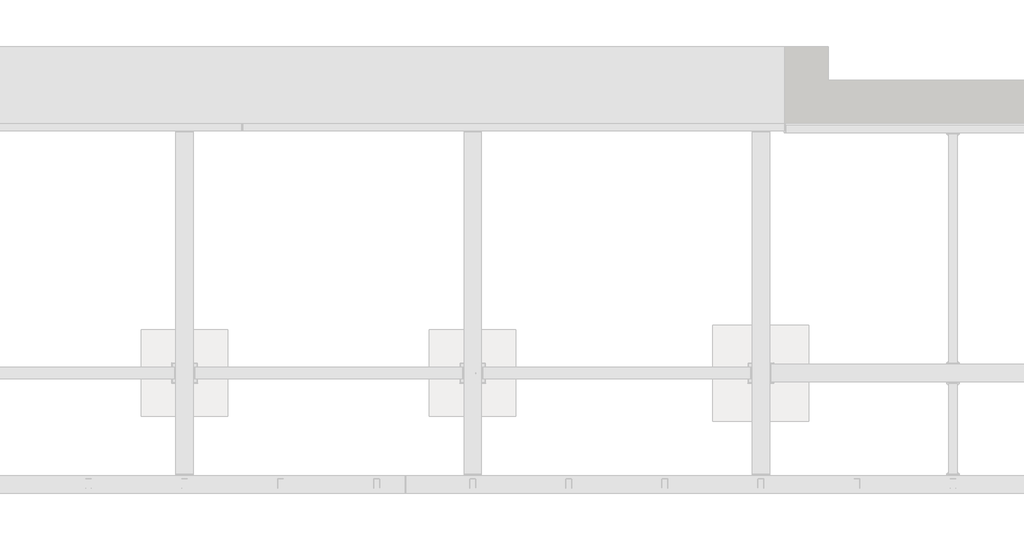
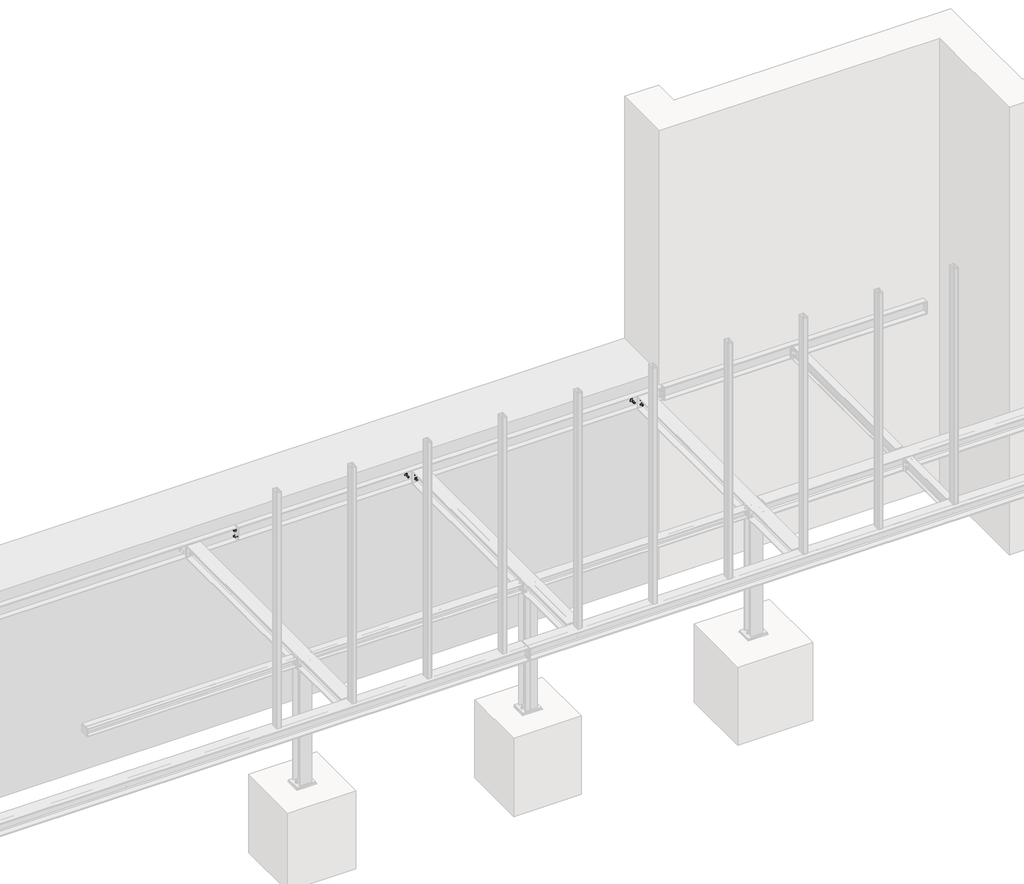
# One storey, part 25 of 31: 2 assemblies.
"""IFC4 building model written with IfcOpenShell, lengths in millimetres."""

import ifcopenshell
import ifcopenshell.guid

model = None  # the IFC model being written
_history = None  # IfcOwnerHistory: only IFC2X3 demands one
_inside = {}  # id of a spatial element -> (the spatial element, [elements in it])
_under = {}  # id of a project, library or spatial element -> (it, [spatial elements below it])
_declared = {}  # id of a project -> (the project, [libraries it declares])
_typed = {}  # id of a type object -> (the type object, [elements of that type])
_made_of = {}  # id of a material, layer set ... -> (it, [elements and type objects made of it])


def new_model(schema):
    """Start an empty IFC model of exactly this schema.

    Asked for "IFC4X3", IfcOpenShell would pick the latest addendum, in which some entities
    have other attributes; the version numbers below select the first issue.
    IFC2X3 requires an IfcOwnerHistory on every rooted entity: one is made here for all.
    """
    global model, _history
    if schema == "IFC4X3":
        model = ifcopenshell.file(schema_version=(4, 3, 0, 0))
    else:
        model = ifcopenshell.file(schema=schema)
    _inside.clear()
    _under.clear()
    _declared.clear()
    _typed.clear()
    _made_of.clear()
    _history = None
    if model.schema == "IFC2X3":
        org = make("IfcOrganization", Name="unknown")
        user = make(
            "IfcPersonAndOrganization",
            ThePerson=make("IfcPerson", FamilyName="unknown"),
            TheOrganization=org,
        )
        app = make(
            "IfcApplication",
            ApplicationDeveloper=org,
            Version="unknown",
            ApplicationFullName="unknown",
            ApplicationIdentifier="unknown",
        )
        _history = make(
            "IfcOwnerHistory",
            OwningUser=user,
            OwningApplication=app,
            ChangeAction="ADDED",
            CreationDate=0,
        )
    return model


def make(cls, **values):
    """One entity of the class cls with the attributes given. An attribute that is None is left unset."""
    return model.create_entity(
        cls, **{name: value for name, value in values.items() if value is not None}
    )


def rooted(cls, **values):
    """An entity with a GlobalId (a new one), such as an element, a storey or a relation."""
    return make(cls, GlobalId=ifcopenshell.guid.new(), OwnerHistory=_history, **values)


def si_unit(unit_type, name, prefix=None):
    """IfcSIUnit, for example si_unit("LENGTHUNIT", "METRE", prefix="MILLI")."""
    return make("IfcSIUnit", UnitType=unit_type, Prefix=prefix, Name=name)


def assignment(units):
    """IfcUnitAssignment: the units of a project."""
    return None if units is None else make("IfcUnitAssignment", Units=units)


def point(xyz):
    """IfcCartesianPoint."""
    return None if xyz is None else make("IfcCartesianPoint", Coordinates=xyz)


def direction(xyz):
    """IfcDirection."""
    return None if xyz is None else make("IfcDirection", DirectionRatios=xyz)


def frame(location, z_axis=None, x_axis=None):
    """IfcAxis2Placement3D, a coordinate frame: its origin and axes. An axis left out is left unset."""
    return make(
        "IfcAxis2Placement3D",
        Location=point(location),
        Axis=direction(z_axis),
        RefDirection=direction(x_axis),
    )


def frame_2d(location, x_axis=None):
    """IfcAxis2Placement2D, a coordinate frame in the plane: its origin and x axis."""
    return make(
        "IfcAxis2Placement2D", Location=point(location), RefDirection=direction(x_axis)
    )


def origin():
    """The frame at (0, 0, 0) with its axes left unset."""
    return frame((0.0, 0.0, 0.0))


def place(relative_to, where):
    """IfcLocalPlacement: puts the frame where relative to a parent placement (None: the world)."""
    return make(
        "IfcLocalPlacement", PlacementRelTo=relative_to, RelativePlacement=where
    )


def context(
    kind, dimensions, precision=None, world=None, true_north=None, identifier=None
):
    """IfcGeometricRepresentationContext, for example the 3D "Model" context."""
    return make(
        "IfcGeometricRepresentationContext",
        ContextIdentifier=identifier,
        ContextType=kind,
        CoordinateSpaceDimension=dimensions,
        Precision=precision,
        WorldCoordinateSystem=world,
        TrueNorth=true_north,
    )


def project(units=None, contexts=None):
    """IfcProject with its units and contexts."""
    return rooted(
        "IfcProject",
        Name="project",
        RepresentationContexts=contexts,
        UnitsInContext=assignment(units),
    )


def spatial(cls, under=None, at=None, **own):
    """A site, building, storey or space (cls), placed at a placement, below another one or the project."""
    s = rooted(cls, ObjectPlacement=at, **own)
    if under is not None:
        _under.setdefault(under.id(), (under, []))[1].append(s)
    return s


def polyline(points):
    """IfcPolyline through the points."""
    return make("IfcPolyline", Points=[point(p) for p in points])


def circle_curve(where, radius):
    """IfcCircle in the frame where."""
    return make("IfcCircle", Position=where, Radius=radius)


def trimmed(basis, trim1, trim2, sense, master):
    """IfcTrimmedCurve: the piece of a basis curve between two trims."""
    return make(
        "IfcTrimmedCurve",
        BasisCurve=basis,
        Trim1=trim1,
        Trim2=trim2,
        SenseAgreement=sense,
        MasterRepresentation=master,
    )


def segment(curve, same_sense, transition):
    """IfcCompositeCurveSegment."""
    return make(
        "IfcCompositeCurveSegment",
        Transition=transition,
        SameSense=same_sense,
        ParentCurve=curve,
    )


def composite_curve(segments, self_intersect=None):
    """IfcCompositeCurve: segments joined end to end."""
    return make("IfcCompositeCurve", Segments=segments, SelfIntersect=self_intersect)


def outline(outer, holes=None, kind="AREA"):
    """IfcArbitraryClosedProfileDef: a profile drawn as a closed curve; with holes, ...WithVoids."""
    if holes is None:
        return make("IfcArbitraryClosedProfileDef", ProfileType=kind, OuterCurve=outer)
    return make(
        "IfcArbitraryProfileDefWithVoids",
        ProfileType=kind,
        OuterCurve=outer,
        InnerCurves=holes,
    )


def extrude(swept, where, along, depth):
    """IfcExtrudedAreaSolid: the profile swept, set in the frame where, extruded along a direction by depth."""
    return make(
        "IfcExtrudedAreaSolid",
        SweptArea=swept,
        Position=where,
        ExtrudedDirection=direction(along),
        Depth=depth,
    )


def shape(context_of_items, identifier, shape_type, items):
    """IfcShapeRepresentation: the items that make up one representation, for example the "Body"."""
    return make(
        "IfcShapeRepresentation",
        ContextOfItems=context_of_items,
        RepresentationIdentifier=identifier,
        RepresentationType=shape_type,
        Items=items,
    )


def made_of(thing, what):
    """Note that an element or type object is made of a material, layer set ...; save() writes the relation."""
    if what is not None:
        _made_of.setdefault(what.id(), (what, []))[1].append(thing)
    return thing


def element(
    cls,
    number,
    at=None,
    inside=None,
    cuts=None,
    type_object=None,
    material=None,
    context=None,
    identifier="Body",
    shape_type=None,
    held_by="IfcProductDefinitionShape",
    body=None,
    shapes=None,
    **own,
):
    """One element of the class cls, such as IfcWall. Its Tag is "e" and its number.

    at: its placement. inside: the storey or other place that contains it. cuts: it is an
    opening in that element (IfcRelVoidsElement). A single representation is given by context,
    identifier, shape_type and body (its items); several are given by shapes. held_by: the class
    of the entity that holds the representations. save() writes the other relations.
    """
    e = rooted(cls, Tag="e%d" % number, ObjectPlacement=at, **own)
    if body is not None:
        shapes = [shape(context, identifier, shape_type, body)]
    if shapes is not None:
        e.Representation = make(held_by, Representations=shapes)
    if inside is not None:
        _inside.setdefault(inside.id(), (inside, []))[1].append(e)
    if cuts is not None:
        rooted(
            "IfcRelVoidsElement", RelatingBuildingElement=cuts, RelatedOpeningElement=e
        )
    if type_object is not None:
        _typed.setdefault(type_object.id(), (type_object, []))[1].append(e)
    return made_of(e, material)


def aggregate(whole, parts):
    """IfcRelAggregates: a whole, such as a stair, and the parts it consists of."""
    return rooted("IfcRelAggregates", RelatingObject=whole, RelatedObjects=parts)


def save(model, path):
    """Write the relations noted so far, then the file.

    IfcRelAggregates (storeys below a building ...), IfcRelContainedInSpatialStructure (elements
    in a storey), IfcRelDefinesByType, IfcRelAssociatesMaterial and IfcRelDeclares: one each for
    every whole, place, type object, material and project.
    """
    for whole, parts in _under.values():
        aggregate(whole, parts)
    for where, things in _inside.values():
        rooted(
            "IfcRelContainedInSpatialStructure",
            RelatedElements=things,
            RelatingStructure=where,
        )
    for kind, things in _typed.values():
        rooted("IfcRelDefinesByType", RelatedObjects=things, RelatingType=kind)
    for what, things in _made_of.values():
        rooted("IfcRelAssociatesMaterial", RelatedObjects=things, RelatingMaterial=what)
    for by, libraries in _declared.values():
        rooted("IfcRelDeclares", RelatingContext=by, RelatedDefinitions=libraries)
    model.write(path)


model = new_model("IFC4")

# Units and contexts
model_context = context("Model", 3, world=origin())
ifc_project = project(units=[si_unit("LENGTHUNIT", "METRE", prefix="MILLI")], contexts=[model_context])

# Site, building, storey
site = spatial("IfcSite", under=ifc_project)
building = spatial("IfcBuilding", under=site)
storey = spatial("IfcBuildingStorey", under=building, Name="Základy", Elevation=-1200.0)

# Assemblies
placement = place(None, origin())
element("IfcElementAssembly", 1, at=placement, inside=storey, context=model_context, shape_type="SweptSolid", body=[
    extrude(outline(composite_curve([segment(polyline([(12073.6, 60.0), (12026.4, 60.0)]), True, "CONTINUOUS"), segment(trimmed(circle_curve(frame_2d((12026.4, 66.4)), 6.4), [point((12026.4, 60.0))], [point((12020.0, 66.4))], False, "CARTESIAN"), True, "CONTINUOUS"), segment(polyline([(12020.0, 66.4), (12020.0, 153.6)]), True, "CONTINUOUS"), segment(trimmed(circle_curve(frame_2d((12026.4, 153.6)), 6.4), [point((12020.0, 153.6))], [point((12026.4, 160.0))], False, "CARTESIAN"), True, "CONTINUOUS"), segment(polyline([(12026.4, 160.0), (12073.6, 160.0)]), True, "CONTINUOUS"), segment(trimmed(circle_curve(frame_2d((12073.6, 153.6)), 6.4), [point((12073.6, 160.0))], [point((12080.0, 153.6))], False, "CARTESIAN"), True, "CONTINUOUS"), segment(polyline([(12080.0, 153.6), (12080.0, 66.4)]), True, "CONTINUOUS"), segment(trimmed(circle_curve(frame_2d((12073.6, 66.4)), 6.4), [point((12080.0, 66.4))], [point((12073.6, 60.0))], False, "CARTESIAN"), True, "CONTINUOUS")], self_intersect=False), holes=[composite_curve([segment(trimmed(circle_curve(frame_2d((12073.6, 66.4)), 3.2), [point((12073.6, 63.2))], [point((12076.8, 66.4))], True, "CARTESIAN"), True, "CONTINUOUS"), segment(polyline([(12076.8, 66.4), (12076.8, 153.6)]), True, "CONTINUOUS"), segment(trimmed(circle_curve(frame_2d((12073.6, 153.6)), 3.2), [point((12076.8, 153.6))], [point((12073.6, 156.8))], True, "CARTESIAN"), True, "CONTINUOUS"), segment(polyline([(12073.6, 156.8), (12026.4, 156.8)]), True, "CONTINUOUS"), segment(trimmed(circle_curve(frame_2d((12026.4, 153.6)), 3.2), [point((12026.4, 156.8))], [point((12023.2, 153.6))], True, "CARTESIAN"), True, "CONTINUOUS"), segment(polyline([(12023.2, 153.6), (12023.2, 66.4)]), True, "CONTINUOUS"), segment(trimmed(circle_curve(frame_2d((12026.4, 66.4)), 3.2), [point((12023.2, 66.4))], [point((12026.4, 63.2))], True, "CARTESIAN"), True, "CONTINUOUS"), segment(polyline([(12026.4, 63.2), (12073.6, 63.2)]), True, "CONTINUOUS")], self_intersect=False)]), frame((0.0, 0.0, -160.0), z_axis=(0.0, 0.0, 1.0), x_axis=(1.0, 0.0, 0.0)), (0.0, 0.0, 1.0), 3320.0),
])
element("IfcElementAssembly", 2, at=placement, inside=storey, context=model_context, shape_type="SweptSolid", body=[
    extrude(outline(polyline([(3860.0, -160.0), (3860.0, -340.0), (3785.0, -340.0), (3785.0, -329.5), (3854.5, -329.5), (3854.5, -170.5), (3785.0, -170.5), (3785.0, -160.0), (3860.0, -160.0)])), frame((6660.0, 0.0, 0.0), z_axis=(1.0, 0.0, 0.0), x_axis=(0.0, 1.0, 0.0)), (0.0, 0.0, 1.0), 5635.0),
    extrude(outline(composite_curve([segment(polyline([(3785.0, -170.5), (3834.5, -170.5)]), True, "CONTINUOUS"), segment(trimmed(circle_curve(frame_2d((3854.5, -170.5)), 20.0), [point((3834.5, -170.5))], [point((3854.5, -190.5))], True, "CARTESIAN"), True, "CONTINUOUS"), segment(polyline([(3854.5, -190.5), (3854.5, -309.5)]), True, "CONTINUOUS"), segment(trimmed(circle_curve(frame_2d((3854.5, -329.5)), 20.0), [point((3854.5, -309.5))], [point((3834.5, -329.5))], True, "CARTESIAN"), True, "CONTINUOUS"), segment(polyline([(3834.5, -329.5), (3785.0, -329.5), (3785.0, -170.5)]), True, "CONTINUOUS")], self_intersect=False)), frame((9046.0, 0.0, 0.0), z_axis=(1.0, 0.0, 0.0), x_axis=(0.0, 1.0, 0.0)), (0.0, 0.0, 1.0), 8.0),
    extrude(outline(polyline([(8960.0, 3785.0), (9140.0, 3785.0), (9140.0, 3775.0), (8960.0, 3775.0), (8960.0, 3785.0)])), frame((0.0, 0.0, -332.0), z_axis=(0.0, 0.0, 1.0), x_axis=(1.0, 0.0, 0.0)), (0.0, 0.0, 1.0), 164.0),
    extrude(outline(composite_curve([segment(polyline([(3785.0, -170.5), (3834.5, -170.5)]), True, "CONTINUOUS"), segment(trimmed(circle_curve(frame_2d((3854.5, -170.5)), 20.0), [point((3834.5, -170.5))], [point((3854.5, -190.5))], True, "CARTESIAN"), True, "CONTINUOUS"), segment(polyline([(3854.5, -190.5), (3854.5, -309.5)]), True, "CONTINUOUS"), segment(trimmed(circle_curve(frame_2d((3854.5, -329.5)), 20.0), [point((3854.5, -309.5))], [point((3834.5, -329.5))], True, "CARTESIAN"), True, "CONTINUOUS"), segment(polyline([(3834.5, -329.5), (3785.0, -329.5), (3785.0, -170.5)]), True, "CONTINUOUS")], self_intersect=False)), frame((12046.0, 0.0, 0.0), z_axis=(1.0, 0.0, 0.0), x_axis=(0.0, 1.0, 0.0)), (0.0, 0.0, 1.0), 8.0),
    extrude(outline(polyline([(11960.0, 3785.0), (12140.0, 3785.0), (12140.0, 3775.0), (11960.0, 3775.0), (11960.0, 3785.0)])), frame((0.0, 0.0, -332.0), z_axis=(0.0, 0.0, 1.0), x_axis=(1.0, 0.0, 0.0)), (0.0, 0.0, 1.0), 164.0),
    extrude(outline(polyline([(6660.0, 3855.0), (6660.0, 3785.0), (6650.0, 3785.0), (6650.0, 3855.0), (6660.0, 3855.0)])), frame((0.0, 0.0, -329.5), z_axis=(0.0, 0.0, 1.0), x_axis=(1.0, 0.0, 0.0)), (0.0, 0.0, 1.0), 159.0),
    extrude(outline(polyline([(12305.0, 3855.0), (12305.0, 3765.0), (12295.0, 3765.0), (12295.0, 3855.0), (12305.0, 3855.0)])), frame((0.0, 0.0, -329.5), z_axis=(0.0, 0.0, 1.0), x_axis=(1.0, 0.0, 0.0)), (0.0, 0.0, 1.0), 159.0),
    extrude(outline(composite_curve([segment(trimmed(circle_curve(frame_2d((-220.0, 9005.0)), 9.0), [point((-220.0, 9014.0))], [point((-220.0, 8996.0))], False, "CARTESIAN"), True, "CONTINUOUS"), segment(trimmed(circle_curve(frame_2d((-220.0, 9005.0)), 9.0), [point((-220.0, 8996.0))], [point((-220.0, 9014.0))], False, "CARTESIAN"), True, "CONTINUOUS")], self_intersect=False)), frame((0.0, 3774.9, 0.0), z_axis=(0.0, 1.0, 0.0), x_axis=(0.0, 0.0, 1.0)), (0.0, 0.0, 1.0), 10.0),
    extrude(outline(polyline([(-220.0, 9018.8564065), (-208.0, 9011.9282032), (-208.0, 8998.0717968), (-220.0, 8991.1435935), (-232.0, 8998.0717968), (-232.0, 9011.9282032), (-220.0, 9018.8564065)])), frame((0.0, 3788.0, 0.0), z_axis=(0.0, 1.0, 0.0), x_axis=(0.0, 0.0, 1.0)), (0.0, 0.0, 1.0), 10.0),
    extrude(outline(composite_curve([segment(trimmed(circle_curve(frame_2d((-220.0, 9005.0)), 8.0), [point((-220.0, 9013.0))], [point((-220.0, 8997.0))], False, "CARTESIAN"), True, "CONTINUOUS"), segment(trimmed(circle_curve(frame_2d((-220.0, 9005.0)), 8.0), [point((-220.0, 8997.0))], [point((-220.0, 9013.0))], False, "CARTESIAN"), True, "CONTINUOUS")], self_intersect=False)), frame((0.0, 3738.0, 0.0), z_axis=(0.0, 1.0, 0.0), x_axis=(0.0, 0.0, 1.0)), (0.0, 0.0, 1.0), 50.0),
    extrude(outline(composite_curve([segment(trimmed(circle_curve(frame_2d((-220.0, 9005.0)), 15.0), [point((-220.0, 9020.0))], [point((-220.0, 8990.0))], False, "CARTESIAN"), True, "CONTINUOUS"), segment(trimmed(circle_curve(frame_2d((-220.0, 9005.0)), 15.0), [point((-220.0, 8990.0))], [point((-220.0, 9020.0))], False, "CARTESIAN"), True, "CONTINUOUS")], self_intersect=False)), frame((0.0, 3785.0, 0.0), z_axis=(0.0, 1.0, 0.0), x_axis=(0.0, 0.0, 1.0)), (0.0, 0.0, 1.0), 3.0),
    extrude(outline(composite_curve([segment(trimmed(circle_curve(frame_2d((-220.0, 9005.0)), 15.0), [point((-220.0, 9020.0))], [point((-220.0, 8990.0))], False, "CARTESIAN"), True, "CONTINUOUS"), segment(trimmed(circle_curve(frame_2d((-220.0, 9005.0)), 15.0), [point((-220.0, 8990.0))], [point((-220.0, 9020.0))], False, "CARTESIAN"), True, "CONTINUOUS")], self_intersect=False)), frame((0.0, 3764.0, 0.0), z_axis=(0.0, 1.0, 0.0), x_axis=(0.0, 0.0, 1.0)), (0.0, 0.0, 1.0), 3.0),
    extrude(outline(polyline([(-220.0, 9020.4441197), (-206.625, 9012.7220599), (-206.625, 8997.2779401), (-220.0, 8989.5558803), (-233.375, 8997.2779401), (-233.375, 9012.7220599), (-220.0, 9020.4441197)])), frame((0.0, 3751.0, 0.0), z_axis=(0.0, 1.0, 0.0), x_axis=(0.0, 0.0, 1.0)), (0.0, 0.0, 1.0), 13.0),
    extrude(outline(composite_curve([segment(trimmed(circle_curve(frame_2d((-220.0, 9005.0)), 9.0), [point((-220.0, 9014.0))], [point((-220.0, 8996.0))], False, "CARTESIAN"), True, "CONTINUOUS"), segment(trimmed(circle_curve(frame_2d((-220.0, 9005.0)), 9.0), [point((-220.0, 8996.0))], [point((-220.0, 9014.0))], False, "CARTESIAN"), True, "CONTINUOUS")], self_intersect=False)), frame((0.0, 3767.0, 0.0), z_axis=(0.0, 1.0, 0.0), x_axis=(0.0, 0.0, 1.0)), (0.0, 0.0, 1.0), 8.1),
    extrude(outline(composite_curve([segment(trimmed(circle_curve(frame_2d((-220.0, 9095.0)), 9.0), [point((-220.0, 9104.0))], [point((-220.0, 9086.0))], False, "CARTESIAN"), True, "CONTINUOUS"), segment(trimmed(circle_curve(frame_2d((-220.0, 9095.0)), 9.0), [point((-220.0, 9086.0))], [point((-220.0, 9104.0))], False, "CARTESIAN"), True, "CONTINUOUS")], self_intersect=False)), frame((0.0, 3774.9, 0.0), z_axis=(0.0, 1.0, 0.0), x_axis=(0.0, 0.0, 1.0)), (0.0, 0.0, 1.0), 10.0),
    extrude(outline(polyline([(-220.0, 9108.8564065), (-208.0, 9101.9282032), (-208.0, 9088.0717968), (-220.0, 9081.1435935), (-232.0, 9088.0717968), (-232.0, 9101.9282032), (-220.0, 9108.8564065)])), frame((0.0, 3788.0, 0.0), z_axis=(0.0, 1.0, 0.0), x_axis=(0.0, 0.0, 1.0)), (0.0, 0.0, 1.0), 10.0),
    extrude(outline(composite_curve([segment(trimmed(circle_curve(frame_2d((-220.0, 9095.0)), 8.0), [point((-220.0, 9103.0))], [point((-220.0, 9087.0))], False, "CARTESIAN"), True, "CONTINUOUS"), segment(trimmed(circle_curve(frame_2d((-220.0, 9095.0)), 8.0), [point((-220.0, 9087.0))], [point((-220.0, 9103.0))], False, "CARTESIAN"), True, "CONTINUOUS")], self_intersect=False)), frame((0.0, 3738.0, 0.0), z_axis=(0.0, 1.0, 0.0), x_axis=(0.0, 0.0, 1.0)), (0.0, 0.0, 1.0), 50.0),
    extrude(outline(composite_curve([segment(trimmed(circle_curve(frame_2d((-220.0, 9095.0)), 15.0), [point((-220.0, 9110.0))], [point((-220.0, 9080.0))], False, "CARTESIAN"), True, "CONTINUOUS"), segment(trimmed(circle_curve(frame_2d((-220.0, 9095.0)), 15.0), [point((-220.0, 9080.0))], [point((-220.0, 9110.0))], False, "CARTESIAN"), True, "CONTINUOUS")], self_intersect=False)), frame((0.0, 3785.0, 0.0), z_axis=(0.0, 1.0, 0.0), x_axis=(0.0, 0.0, 1.0)), (0.0, 0.0, 1.0), 3.0),
    extrude(outline(composite_curve([segment(trimmed(circle_curve(frame_2d((-220.0, 9095.0)), 15.0), [point((-220.0, 9110.0))], [point((-220.0, 9080.0))], False, "CARTESIAN"), True, "CONTINUOUS"), segment(trimmed(circle_curve(frame_2d((-220.0, 9095.0)), 15.0), [point((-220.0, 9080.0))], [point((-220.0, 9110.0))], False, "CARTESIAN"), True, "CONTINUOUS")], self_intersect=False)), frame((0.0, 3764.0, 0.0), z_axis=(0.0, 1.0, 0.0), x_axis=(0.0, 0.0, 1.0)), (0.0, 0.0, 1.0), 3.0),
    extrude(outline(polyline([(-220.0, 9110.4441197), (-206.625, 9102.7220599), (-206.625, 9087.2779401), (-220.0, 9079.5558803), (-233.375, 9087.2779401), (-233.375, 9102.7220599), (-220.0, 9110.4441197)])), frame((0.0, 3751.0, 0.0), z_axis=(0.0, 1.0, 0.0), x_axis=(0.0, 0.0, 1.0)), (0.0, 0.0, 1.0), 13.0),
    extrude(outline(composite_curve([segment(trimmed(circle_curve(frame_2d((-220.0, 9095.0)), 9.0), [point((-220.0, 9104.0))], [point((-220.0, 9086.0))], False, "CARTESIAN"), True, "CONTINUOUS"), segment(trimmed(circle_curve(frame_2d((-220.0, 9095.0)), 9.0), [point((-220.0, 9086.0))], [point((-220.0, 9104.0))], False, "CARTESIAN"), True, "CONTINUOUS")], self_intersect=False)), frame((0.0, 3767.0, 0.0), z_axis=(0.0, 1.0, 0.0), x_axis=(0.0, 0.0, 1.0)), (0.0, 0.0, 1.0), 8.1),
    extrude(outline(composite_curve([segment(trimmed(circle_curve(frame_2d((-280.0, 9005.0)), 9.0), [point((-280.0, 9014.0))], [point((-280.0, 8996.0))], False, "CARTESIAN"), True, "CONTINUOUS"), segment(trimmed(circle_curve(frame_2d((-280.0, 9005.0)), 9.0), [point((-280.0, 8996.0))], [point((-280.0, 9014.0))], False, "CARTESIAN"), True, "CONTINUOUS")], self_intersect=False)), frame((0.0, 3774.9, 0.0), z_axis=(0.0, 1.0, 0.0), x_axis=(0.0, 0.0, 1.0)), (0.0, 0.0, 1.0), 10.0),
    extrude(outline(polyline([(-280.0, 9018.8564065), (-268.0, 9011.9282032), (-268.0, 8998.0717968), (-280.0, 8991.1435935), (-292.0, 8998.0717968), (-292.0, 9011.9282032), (-280.0, 9018.8564065)])), frame((0.0, 3788.0, 0.0), z_axis=(0.0, 1.0, 0.0), x_axis=(0.0, 0.0, 1.0)), (0.0, 0.0, 1.0), 10.0),
    extrude(outline(composite_curve([segment(trimmed(circle_curve(frame_2d((-280.0, 9005.0)), 8.0), [point((-280.0, 9013.0))], [point((-280.0, 8997.0))], False, "CARTESIAN"), True, "CONTINUOUS"), segment(trimmed(circle_curve(frame_2d((-280.0, 9005.0)), 8.0), [point((-280.0, 8997.0))], [point((-280.0, 9013.0))], False, "CARTESIAN"), True, "CONTINUOUS")], self_intersect=False)), frame((0.0, 3738.0, 0.0), z_axis=(0.0, 1.0, 0.0), x_axis=(0.0, 0.0, 1.0)), (0.0, 0.0, 1.0), 50.0),
    extrude(outline(composite_curve([segment(trimmed(circle_curve(frame_2d((-280.0, 9005.0)), 15.0), [point((-280.0, 9020.0))], [point((-280.0, 8990.0))], False, "CARTESIAN"), True, "CONTINUOUS"), segment(trimmed(circle_curve(frame_2d((-280.0, 9005.0)), 15.0), [point((-280.0, 8990.0))], [point((-280.0, 9020.0))], False, "CARTESIAN"), True, "CONTINUOUS")], self_intersect=False)), frame((0.0, 3785.0, 0.0), z_axis=(0.0, 1.0, 0.0), x_axis=(0.0, 0.0, 1.0)), (0.0, 0.0, 1.0), 3.0),
    extrude(outline(composite_curve([segment(trimmed(circle_curve(frame_2d((-280.0, 9005.0)), 15.0), [point((-280.0, 9020.0))], [point((-280.0, 8990.0))], False, "CARTESIAN"), True, "CONTINUOUS"), segment(trimmed(circle_curve(frame_2d((-280.0, 9005.0)), 15.0), [point((-280.0, 8990.0))], [point((-280.0, 9020.0))], False, "CARTESIAN"), True, "CONTINUOUS")], self_intersect=False)), frame((0.0, 3764.0, 0.0), z_axis=(0.0, 1.0, 0.0), x_axis=(0.0, 0.0, 1.0)), (0.0, 0.0, 1.0), 3.0),
    extrude(outline(polyline([(-280.0, 9020.4441197), (-266.625, 9012.7220599), (-266.625, 8997.2779401), (-280.0, 8989.5558803), (-293.375, 8997.2779401), (-293.375, 9012.7220599), (-280.0, 9020.4441197)])), frame((0.0, 3751.0, 0.0), z_axis=(0.0, 1.0, 0.0), x_axis=(0.0, 0.0, 1.0)), (0.0, 0.0, 1.0), 13.0),
    extrude(outline(composite_curve([segment(trimmed(circle_curve(frame_2d((-280.0, 9005.0)), 9.0), [point((-280.0, 9014.0))], [point((-280.0, 8996.0))], False, "CARTESIAN"), True, "CONTINUOUS"), segment(trimmed(circle_curve(frame_2d((-280.0, 9005.0)), 9.0), [point((-280.0, 8996.0))], [point((-280.0, 9014.0))], False, "CARTESIAN"), True, "CONTINUOUS")], self_intersect=False)), frame((0.0, 3767.0, 0.0), z_axis=(0.0, 1.0, 0.0), x_axis=(0.0, 0.0, 1.0)), (0.0, 0.0, 1.0), 8.1),
    extrude(outline(composite_curve([segment(trimmed(circle_curve(frame_2d((-280.0, 9095.0)), 9.0), [point((-280.0, 9104.0))], [point((-280.0, 9086.0))], False, "CARTESIAN"), True, "CONTINUOUS"), segment(trimmed(circle_curve(frame_2d((-280.0, 9095.0)), 9.0), [point((-280.0, 9086.0))], [point((-280.0, 9104.0))], False, "CARTESIAN"), True, "CONTINUOUS")], self_intersect=False)), frame((0.0, 3774.9, 0.0), z_axis=(0.0, 1.0, 0.0), x_axis=(0.0, 0.0, 1.0)), (0.0, 0.0, 1.0), 10.0),
    extrude(outline(polyline([(-280.0, 9108.8564065), (-268.0, 9101.9282032), (-268.0, 9088.0717968), (-280.0, 9081.1435935), (-292.0, 9088.0717968), (-292.0, 9101.9282032), (-280.0, 9108.8564065)])), frame((0.0, 3788.0, 0.0), z_axis=(0.0, 1.0, 0.0), x_axis=(0.0, 0.0, 1.0)), (0.0, 0.0, 1.0), 10.0),
    extrude(outline(composite_curve([segment(trimmed(circle_curve(frame_2d((-280.0, 9095.0)), 8.0), [point((-280.0, 9103.0))], [point((-280.0, 9087.0))], False, "CARTESIAN"), True, "CONTINUOUS"), segment(trimmed(circle_curve(frame_2d((-280.0, 9095.0)), 8.0), [point((-280.0, 9087.0))], [point((-280.0, 9103.0))], False, "CARTESIAN"), True, "CONTINUOUS")], self_intersect=False)), frame((0.0, 3738.0, 0.0), z_axis=(0.0, 1.0, 0.0), x_axis=(0.0, 0.0, 1.0)), (0.0, 0.0, 1.0), 50.0),
    extrude(outline(composite_curve([segment(trimmed(circle_curve(frame_2d((-280.0, 9095.0)), 15.0), [point((-280.0, 9110.0))], [point((-280.0, 9080.0))], False, "CARTESIAN"), True, "CONTINUOUS"), segment(trimmed(circle_curve(frame_2d((-280.0, 9095.0)), 15.0), [point((-280.0, 9080.0))], [point((-280.0, 9110.0))], False, "CARTESIAN"), True, "CONTINUOUS")], self_intersect=False)), frame((0.0, 3785.0, 0.0), z_axis=(0.0, 1.0, 0.0), x_axis=(0.0, 0.0, 1.0)), (0.0, 0.0, 1.0), 3.0),
    extrude(outline(composite_curve([segment(trimmed(circle_curve(frame_2d((-280.0, 9095.0)), 15.0), [point((-280.0, 9110.0))], [point((-280.0, 9080.0))], False, "CARTESIAN"), True, "CONTINUOUS"), segment(trimmed(circle_curve(frame_2d((-280.0, 9095.0)), 15.0), [point((-280.0, 9080.0))], [point((-280.0, 9110.0))], False, "CARTESIAN"), True, "CONTINUOUS")], self_intersect=False)), frame((0.0, 3764.0, 0.0), z_axis=(0.0, 1.0, 0.0), x_axis=(0.0, 0.0, 1.0)), (0.0, 0.0, 1.0), 3.0),
    extrude(outline(polyline([(-280.0, 9110.4441197), (-266.625, 9102.7220599), (-266.625, 9087.2779401), (-280.0, 9079.5558803), (-293.375, 9087.2779401), (-293.375, 9102.7220599), (-280.0, 9110.4441197)])), frame((0.0, 3751.0, 0.0), z_axis=(0.0, 1.0, 0.0), x_axis=(0.0, 0.0, 1.0)), (0.0, 0.0, 1.0), 13.0),
    extrude(outline(composite_curve([segment(trimmed(circle_curve(frame_2d((-280.0, 9095.0)), 9.0), [point((-280.0, 9104.0))], [point((-280.0, 9086.0))], False, "CARTESIAN"), True, "CONTINUOUS"), segment(trimmed(circle_curve(frame_2d((-280.0, 9095.0)), 9.0), [point((-280.0, 9086.0))], [point((-280.0, 9104.0))], False, "CARTESIAN"), True, "CONTINUOUS")], self_intersect=False)), frame((0.0, 3767.0, 0.0), z_axis=(0.0, 1.0, 0.0), x_axis=(0.0, 0.0, 1.0)), (0.0, 0.0, 1.0), 8.1),
    extrude(outline(composite_curve([segment(trimmed(circle_curve(frame_2d((-220.0, 12005.0)), 9.0), [point((-220.0, 12014.0))], [point((-220.0, 11996.0))], False, "CARTESIAN"), True, "CONTINUOUS"), segment(trimmed(circle_curve(frame_2d((-220.0, 12005.0)), 9.0), [point((-220.0, 11996.0))], [point((-220.0, 12014.0))], False, "CARTESIAN"), True, "CONTINUOUS")], self_intersect=False)), frame((0.0, 3774.9, 0.0), z_axis=(0.0, 1.0, 0.0), x_axis=(0.0, 0.0, 1.0)), (0.0, 0.0, 1.0), 10.0),
    extrude(outline(polyline([(-220.0, 12018.8564065), (-208.0, 12011.9282032), (-208.0, 11998.0717968), (-220.0, 11991.1435935), (-232.0, 11998.0717968), (-232.0, 12011.9282032), (-220.0, 12018.8564065)])), frame((0.0, 3788.0, 0.0), z_axis=(0.0, 1.0, 0.0), x_axis=(0.0, 0.0, 1.0)), (0.0, 0.0, 1.0), 10.0),
    extrude(outline(composite_curve([segment(trimmed(circle_curve(frame_2d((-220.0, 12005.0)), 8.0), [point((-220.0, 12013.0))], [point((-220.0, 11997.0))], False, "CARTESIAN"), True, "CONTINUOUS"), segment(trimmed(circle_curve(frame_2d((-220.0, 12005.0)), 8.0), [point((-220.0, 11997.0))], [point((-220.0, 12013.0))], False, "CARTESIAN"), True, "CONTINUOUS")], self_intersect=False)), frame((0.0, 3738.0, 0.0), z_axis=(0.0, 1.0, 0.0), x_axis=(0.0, 0.0, 1.0)), (0.0, 0.0, 1.0), 50.0),
    extrude(outline(composite_curve([segment(trimmed(circle_curve(frame_2d((-220.0, 12005.0)), 15.0), [point((-220.0, 12020.0))], [point((-220.0, 11990.0))], False, "CARTESIAN"), True, "CONTINUOUS"), segment(trimmed(circle_curve(frame_2d((-220.0, 12005.0)), 15.0), [point((-220.0, 11990.0))], [point((-220.0, 12020.0))], False, "CARTESIAN"), True, "CONTINUOUS")], self_intersect=False)), frame((0.0, 3785.0, 0.0), z_axis=(0.0, 1.0, 0.0), x_axis=(0.0, 0.0, 1.0)), (0.0, 0.0, 1.0), 3.0),
    extrude(outline(composite_curve([segment(trimmed(circle_curve(frame_2d((-220.0, 12005.0)), 15.0), [point((-220.0, 12020.0))], [point((-220.0, 11990.0))], False, "CARTESIAN"), True, "CONTINUOUS"), segment(trimmed(circle_curve(frame_2d((-220.0, 12005.0)), 15.0), [point((-220.0, 11990.0))], [point((-220.0, 12020.0))], False, "CARTESIAN"), True, "CONTINUOUS")], self_intersect=False)), frame((0.0, 3764.0, 0.0), z_axis=(0.0, 1.0, 0.0), x_axis=(0.0, 0.0, 1.0)), (0.0, 0.0, 1.0), 3.0),
    extrude(outline(polyline([(-220.0, 12020.4441197), (-206.625, 12012.7220599), (-206.625, 11997.2779401), (-220.0, 11989.5558803), (-233.375, 11997.2779401), (-233.375, 12012.7220599), (-220.0, 12020.4441197)])), frame((0.0, 3751.0, 0.0), z_axis=(0.0, 1.0, 0.0), x_axis=(0.0, 0.0, 1.0)), (0.0, 0.0, 1.0), 13.0),
    extrude(outline(composite_curve([segment(trimmed(circle_curve(frame_2d((-220.0, 12005.0)), 9.0), [point((-220.0, 12014.0))], [point((-220.0, 11996.0))], False, "CARTESIAN"), True, "CONTINUOUS"), segment(trimmed(circle_curve(frame_2d((-220.0, 12005.0)), 9.0), [point((-220.0, 11996.0))], [point((-220.0, 12014.0))], False, "CARTESIAN"), True, "CONTINUOUS")], self_intersect=False)), frame((0.0, 3767.0, 0.0), z_axis=(0.0, 1.0, 0.0), x_axis=(0.0, 0.0, 1.0)), (0.0, 0.0, 1.0), 8.1),
    extrude(outline(composite_curve([segment(trimmed(circle_curve(frame_2d((-220.0, 12095.0)), 9.0), [point((-220.0, 12104.0))], [point((-220.0, 12086.0))], False, "CARTESIAN"), True, "CONTINUOUS"), segment(trimmed(circle_curve(frame_2d((-220.0, 12095.0)), 9.0), [point((-220.0, 12086.0))], [point((-220.0, 12104.0))], False, "CARTESIAN"), True, "CONTINUOUS")], self_intersect=False)), frame((0.0, 3774.9, 0.0), z_axis=(0.0, 1.0, 0.0), x_axis=(0.0, 0.0, 1.0)), (0.0, 0.0, 1.0), 10.0),
    extrude(outline(polyline([(-220.0, 12108.8564065), (-208.0, 12101.9282032), (-208.0, 12088.0717968), (-220.0, 12081.1435935), (-232.0, 12088.0717968), (-232.0, 12101.9282032), (-220.0, 12108.8564065)])), frame((0.0, 3788.0, 0.0), z_axis=(0.0, 1.0, 0.0), x_axis=(0.0, 0.0, 1.0)), (0.0, 0.0, 1.0), 10.0),
    extrude(outline(composite_curve([segment(trimmed(circle_curve(frame_2d((-220.0, 12095.0)), 8.0), [point((-220.0, 12103.0))], [point((-220.0, 12087.0))], False, "CARTESIAN"), True, "CONTINUOUS"), segment(trimmed(circle_curve(frame_2d((-220.0, 12095.0)), 8.0), [point((-220.0, 12087.0))], [point((-220.0, 12103.0))], False, "CARTESIAN"), True, "CONTINUOUS")], self_intersect=False)), frame((0.0, 3738.0, 0.0), z_axis=(0.0, 1.0, 0.0), x_axis=(0.0, 0.0, 1.0)), (0.0, 0.0, 1.0), 50.0),
    extrude(outline(composite_curve([segment(trimmed(circle_curve(frame_2d((-220.0, 12095.0)), 15.0), [point((-220.0, 12110.0))], [point((-220.0, 12080.0))], False, "CARTESIAN"), True, "CONTINUOUS"), segment(trimmed(circle_curve(frame_2d((-220.0, 12095.0)), 15.0), [point((-220.0, 12080.0))], [point((-220.0, 12110.0))], False, "CARTESIAN"), True, "CONTINUOUS")], self_intersect=False)), frame((0.0, 3785.0, 0.0), z_axis=(0.0, 1.0, 0.0), x_axis=(0.0, 0.0, 1.0)), (0.0, 0.0, 1.0), 3.0),
    extrude(outline(composite_curve([segment(trimmed(circle_curve(frame_2d((-220.0, 12095.0)), 15.0), [point((-220.0, 12110.0))], [point((-220.0, 12080.0))], False, "CARTESIAN"), True, "CONTINUOUS"), segment(trimmed(circle_curve(frame_2d((-220.0, 12095.0)), 15.0), [point((-220.0, 12080.0))], [point((-220.0, 12110.0))], False, "CARTESIAN"), True, "CONTINUOUS")], self_intersect=False)), frame((0.0, 3764.0, 0.0), z_axis=(0.0, 1.0, 0.0), x_axis=(0.0, 0.0, 1.0)), (0.0, 0.0, 1.0), 3.0),
    extrude(outline(polyline([(-220.0, 12110.4441197), (-206.625, 12102.7220599), (-206.625, 12087.2779401), (-220.0, 12079.5558803), (-233.375, 12087.2779401), (-233.375, 12102.7220599), (-220.0, 12110.4441197)])), frame((0.0, 3751.0, 0.0), z_axis=(0.0, 1.0, 0.0), x_axis=(0.0, 0.0, 1.0)), (0.0, 0.0, 1.0), 13.0),
    extrude(outline(composite_curve([segment(trimmed(circle_curve(frame_2d((-220.0, 12095.0)), 9.0), [point((-220.0, 12104.0))], [point((-220.0, 12086.0))], False, "CARTESIAN"), True, "CONTINUOUS"), segment(trimmed(circle_curve(frame_2d((-220.0, 12095.0)), 9.0), [point((-220.0, 12086.0))], [point((-220.0, 12104.0))], False, "CARTESIAN"), True, "CONTINUOUS")], self_intersect=False)), frame((0.0, 3767.0, 0.0), z_axis=(0.0, 1.0, 0.0), x_axis=(0.0, 0.0, 1.0)), (0.0, 0.0, 1.0), 8.1),
    extrude(outline(composite_curve([segment(trimmed(circle_curve(frame_2d((-280.0, 12005.0)), 9.0), [point((-280.0, 12014.0))], [point((-280.0, 11996.0))], False, "CARTESIAN"), True, "CONTINUOUS"), segment(trimmed(circle_curve(frame_2d((-280.0, 12005.0)), 9.0), [point((-280.0, 11996.0))], [point((-280.0, 12014.0))], False, "CARTESIAN"), True, "CONTINUOUS")], self_intersect=False)), frame((0.0, 3774.9, 0.0), z_axis=(0.0, 1.0, 0.0), x_axis=(0.0, 0.0, 1.0)), (0.0, 0.0, 1.0), 10.0),
    extrude(outline(polyline([(-280.0, 12018.8564065), (-268.0, 12011.9282032), (-268.0, 11998.0717968), (-280.0, 11991.1435935), (-292.0, 11998.0717968), (-292.0, 12011.9282032), (-280.0, 12018.8564065)])), frame((0.0, 3788.0, 0.0), z_axis=(0.0, 1.0, 0.0), x_axis=(0.0, 0.0, 1.0)), (0.0, 0.0, 1.0), 10.0),
    extrude(outline(composite_curve([segment(trimmed(circle_curve(frame_2d((-280.0, 12005.0)), 8.0), [point((-280.0, 12013.0))], [point((-280.0, 11997.0))], False, "CARTESIAN"), True, "CONTINUOUS"), segment(trimmed(circle_curve(frame_2d((-280.0, 12005.0)), 8.0), [point((-280.0, 11997.0))], [point((-280.0, 12013.0))], False, "CARTESIAN"), True, "CONTINUOUS")], self_intersect=False)), frame((0.0, 3738.0, 0.0), z_axis=(0.0, 1.0, 0.0), x_axis=(0.0, 0.0, 1.0)), (0.0, 0.0, 1.0), 50.0),
    extrude(outline(composite_curve([segment(trimmed(circle_curve(frame_2d((-280.0, 12005.0)), 15.0), [point((-280.0, 12020.0))], [point((-280.0, 11990.0))], False, "CARTESIAN"), True, "CONTINUOUS"), segment(trimmed(circle_curve(frame_2d((-280.0, 12005.0)), 15.0), [point((-280.0, 11990.0))], [point((-280.0, 12020.0))], False, "CARTESIAN"), True, "CONTINUOUS")], self_intersect=False)), frame((0.0, 3785.0, 0.0), z_axis=(0.0, 1.0, 0.0), x_axis=(0.0, 0.0, 1.0)), (0.0, 0.0, 1.0), 3.0),
    extrude(outline(composite_curve([segment(trimmed(circle_curve(frame_2d((-280.0, 12005.0)), 15.0), [point((-280.0, 12020.0))], [point((-280.0, 11990.0))], False, "CARTESIAN"), True, "CONTINUOUS"), segment(trimmed(circle_curve(frame_2d((-280.0, 12005.0)), 15.0), [point((-280.0, 11990.0))], [point((-280.0, 12020.0))], False, "CARTESIAN"), True, "CONTINUOUS")], self_intersect=False)), frame((0.0, 3764.0, 0.0), z_axis=(0.0, 1.0, 0.0), x_axis=(0.0, 0.0, 1.0)), (0.0, 0.0, 1.0), 3.0),
    extrude(outline(polyline([(-280.0, 12020.4441197), (-266.625, 12012.7220599), (-266.625, 11997.2779401), (-280.0, 11989.5558803), (-293.375, 11997.2779401), (-293.375, 12012.7220599), (-280.0, 12020.4441197)])), frame((0.0, 3751.0, 0.0), z_axis=(0.0, 1.0, 0.0), x_axis=(0.0, 0.0, 1.0)), (0.0, 0.0, 1.0), 13.0),
    extrude(outline(composite_curve([segment(trimmed(circle_curve(frame_2d((-280.0, 12005.0)), 9.0), [point((-280.0, 12014.0))], [point((-280.0, 11996.0))], False, "CARTESIAN"), True, "CONTINUOUS"), segment(trimmed(circle_curve(frame_2d((-280.0, 12005.0)), 9.0), [point((-280.0, 11996.0))], [point((-280.0, 12014.0))], False, "CARTESIAN"), True, "CONTINUOUS")], self_intersect=False)), frame((0.0, 3767.0, 0.0), z_axis=(0.0, 1.0, 0.0), x_axis=(0.0, 0.0, 1.0)), (0.0, 0.0, 1.0), 8.1),
    extrude(outline(composite_curve([segment(trimmed(circle_curve(frame_2d((-280.0, 12095.0)), 9.0), [point((-280.0, 12104.0))], [point((-280.0, 12086.0))], False, "CARTESIAN"), True, "CONTINUOUS"), segment(trimmed(circle_curve(frame_2d((-280.0, 12095.0)), 9.0), [point((-280.0, 12086.0))], [point((-280.0, 12104.0))], False, "CARTESIAN"), True, "CONTINUOUS")], self_intersect=False)), frame((0.0, 3774.9, 0.0), z_axis=(0.0, 1.0, 0.0), x_axis=(0.0, 0.0, 1.0)), (0.0, 0.0, 1.0), 10.0),
    extrude(outline(polyline([(-280.0, 12108.8564065), (-268.0, 12101.9282032), (-268.0, 12088.0717968), (-280.0, 12081.1435935), (-292.0, 12088.0717968), (-292.0, 12101.9282032), (-280.0, 12108.8564065)])), frame((0.0, 3788.0, 0.0), z_axis=(0.0, 1.0, 0.0), x_axis=(0.0, 0.0, 1.0)), (0.0, 0.0, 1.0), 10.0),
    extrude(outline(composite_curve([segment(trimmed(circle_curve(frame_2d((-280.0, 12095.0)), 8.0), [point((-280.0, 12103.0))], [point((-280.0, 12087.0))], False, "CARTESIAN"), True, "CONTINUOUS"), segment(trimmed(circle_curve(frame_2d((-280.0, 12095.0)), 8.0), [point((-280.0, 12087.0))], [point((-280.0, 12103.0))], False, "CARTESIAN"), True, "CONTINUOUS")], self_intersect=False)), frame((0.0, 3738.0, 0.0), z_axis=(0.0, 1.0, 0.0), x_axis=(0.0, 0.0, 1.0)), (0.0, 0.0, 1.0), 50.0),
    extrude(outline(composite_curve([segment(trimmed(circle_curve(frame_2d((-280.0, 12095.0)), 15.0), [point((-280.0, 12110.0))], [point((-280.0, 12080.0))], False, "CARTESIAN"), True, "CONTINUOUS"), segment(trimmed(circle_curve(frame_2d((-280.0, 12095.0)), 15.0), [point((-280.0, 12080.0))], [point((-280.0, 12110.0))], False, "CARTESIAN"), True, "CONTINUOUS")], self_intersect=False)), frame((0.0, 3785.0, 0.0), z_axis=(0.0, 1.0, 0.0), x_axis=(0.0, 0.0, 1.0)), (0.0, 0.0, 1.0), 3.0),
    extrude(outline(composite_curve([segment(trimmed(circle_curve(frame_2d((-280.0, 12095.0)), 15.0), [point((-280.0, 12110.0))], [point((-280.0, 12080.0))], False, "CARTESIAN"), True, "CONTINUOUS"), segment(trimmed(circle_curve(frame_2d((-280.0, 12095.0)), 15.0), [point((-280.0, 12080.0))], [point((-280.0, 12110.0))], False, "CARTESIAN"), True, "CONTINUOUS")], self_intersect=False)), frame((0.0, 3764.0, 0.0), z_axis=(0.0, 1.0, 0.0), x_axis=(0.0, 0.0, 1.0)), (0.0, 0.0, 1.0), 3.0),
    extrude(outline(polyline([(-280.0, 12110.4441197), (-266.625, 12102.7220599), (-266.625, 12087.2779401), (-280.0, 12079.5558803), (-293.375, 12087.2779401), (-293.375, 12102.7220599), (-280.0, 12110.4441197)])), frame((0.0, 3751.0, 0.0), z_axis=(0.0, 1.0, 0.0), x_axis=(0.0, 0.0, 1.0)), (0.0, 0.0, 1.0), 13.0),
    extrude(outline(composite_curve([segment(trimmed(circle_curve(frame_2d((-280.0, 12095.0)), 9.0), [point((-280.0, 12104.0))], [point((-280.0, 12086.0))], False, "CARTESIAN"), True, "CONTINUOUS"), segment(trimmed(circle_curve(frame_2d((-280.0, 12095.0)), 9.0), [point((-280.0, 12086.0))], [point((-280.0, 12104.0))], False, "CARTESIAN"), True, "CONTINUOUS")], self_intersect=False)), frame((0.0, 3767.0, 0.0), z_axis=(0.0, 1.0, 0.0), x_axis=(0.0, 0.0, 1.0)), (0.0, 0.0, 1.0), 8.1),
    extrude(outline(polyline([(-250.0, 8934.8149546), (-241.5, 8929.9074773), (-241.5, 8920.0925227), (-250.0, 8915.1850454), (-258.5, 8920.0925227), (-258.5, 8929.9074773), (-250.0, 8934.8149546)])), frame((0.0, 3860.0, 0.0), z_axis=(0.0, 1.0, 0.0), x_axis=(0.0, 0.0, 1.0)), (0.0, 0.0, 1.0), 168.0),
    extrude(outline(composite_curve([segment(trimmed(circle_curve(frame_2d((-250.0, 8925.0)), 10.0), [point((-250.0, 8935.0))], [point((-250.0, 8915.0))], False, "CARTESIAN"), True, "CONTINUOUS"), segment(trimmed(circle_curve(frame_2d((-250.0, 8925.0)), 10.0), [point((-250.0, 8915.0))], [point((-250.0, 8935.0))], False, "CARTESIAN"), True, "CONTINUOUS")], self_intersect=False)), frame((0.0, 3788.0, 0.0), z_axis=(0.0, 1.0, 0.0), x_axis=(0.0, 0.0, 1.0)), (0.0, 0.0, 1.0), 72.0),
    extrude(outline(composite_curve([segment(trimmed(circle_curve(frame_2d((-250.0, 8925.0)), 18.5), [point((-250.0, 8943.5))], [point((-250.0, 8906.5))], False, "CARTESIAN"), True, "CONTINUOUS"), segment(trimmed(circle_curve(frame_2d((-250.0, 8925.0)), 18.5), [point((-250.0, 8906.5))], [point((-250.0, 8943.5))], False, "CARTESIAN"), True, "CONTINUOUS")], self_intersect=False)), frame((0.0, 3851.5, 0.0), z_axis=(0.0, 1.0, 0.0), x_axis=(0.0, 0.0, 1.0)), (0.0, 0.0, 1.0), 3.0),
    extrude(outline(polyline([(-250.0, 8942.3205081), (-235.0, 8933.660254), (-235.0, 8916.339746), (-250.0, 8907.6794919), (-265.0, 8916.339746), (-265.0, 8933.660254), (-250.0, 8942.3205081)])), frame((0.0, 3835.5, 0.0), z_axis=(0.0, 1.0, 0.0), x_axis=(0.0, 0.0, 1.0)), (0.0, 0.0, 1.0), 16.0),
    extrude(outline(composite_curve([segment(trimmed(circle_curve(frame_2d((-250.0, 8925.0)), 11.0), [point((-250.0, 8936.0))], [point((-250.0, 8914.0))], False, "CARTESIAN"), True, "CONTINUOUS"), segment(trimmed(circle_curve(frame_2d((-250.0, 8925.0)), 11.0), [point((-250.0, 8914.0))], [point((-250.0, 8936.0))], False, "CARTESIAN"), True, "CONTINUOUS")], self_intersect=False)), frame((0.0, 3854.4, 0.0), z_axis=(0.0, 1.0, 0.0), x_axis=(0.0, 0.0, 1.0)), (0.0, 0.0, 1.0), 5.6),
    extrude(outline(polyline([(-250.0, 9184.8149546), (-241.5, 9179.9074773), (-241.5, 9170.0925227), (-250.0, 9165.1850454), (-258.5, 9170.0925227), (-258.5, 9179.9074773), (-250.0, 9184.8149546)])), frame((0.0, 3860.0, 0.0), z_axis=(0.0, 1.0, 0.0), x_axis=(0.0, 0.0, 1.0)), (0.0, 0.0, 1.0), 168.0),
    extrude(outline(composite_curve([segment(trimmed(circle_curve(frame_2d((-250.0, 9175.0)), 10.0), [point((-250.0, 9185.0))], [point((-250.0, 9165.0))], False, "CARTESIAN"), True, "CONTINUOUS"), segment(trimmed(circle_curve(frame_2d((-250.0, 9175.0)), 10.0), [point((-250.0, 9165.0))], [point((-250.0, 9185.0))], False, "CARTESIAN"), True, "CONTINUOUS")], self_intersect=False)), frame((0.0, 3788.0, 0.0), z_axis=(0.0, 1.0, 0.0), x_axis=(0.0, 0.0, 1.0)), (0.0, 0.0, 1.0), 72.0),
    extrude(outline(composite_curve([segment(trimmed(circle_curve(frame_2d((-250.0, 9175.0)), 18.5), [point((-250.0, 9193.5))], [point((-250.0, 9156.5))], False, "CARTESIAN"), True, "CONTINUOUS"), segment(trimmed(circle_curve(frame_2d((-250.0, 9175.0)), 18.5), [point((-250.0, 9156.5))], [point((-250.0, 9193.5))], False, "CARTESIAN"), True, "CONTINUOUS")], self_intersect=False)), frame((0.0, 3851.5, 0.0), z_axis=(0.0, 1.0, 0.0), x_axis=(0.0, 0.0, 1.0)), (0.0, 0.0, 1.0), 3.0),
    extrude(outline(polyline([(-250.0, 9192.3205081), (-235.0, 9183.660254), (-235.0, 9166.339746), (-250.0, 9157.6794919), (-265.0, 9166.339746), (-265.0, 9183.660254), (-250.0, 9192.3205081)])), frame((0.0, 3835.5, 0.0), z_axis=(0.0, 1.0, 0.0), x_axis=(0.0, 0.0, 1.0)), (0.0, 0.0, 1.0), 16.0),
    extrude(outline(composite_curve([segment(trimmed(circle_curve(frame_2d((-250.0, 9175.0)), 11.0), [point((-250.0, 9186.0))], [point((-250.0, 9164.0))], False, "CARTESIAN"), True, "CONTINUOUS"), segment(trimmed(circle_curve(frame_2d((-250.0, 9175.0)), 11.0), [point((-250.0, 9164.0))], [point((-250.0, 9186.0))], False, "CARTESIAN"), True, "CONTINUOUS")], self_intersect=False)), frame((0.0, 3854.4, 0.0), z_axis=(0.0, 1.0, 0.0), x_axis=(0.0, 0.0, 1.0)), (0.0, 0.0, 1.0), 5.6),
    extrude(outline(polyline([(-250.0, 11934.8149546), (-241.5, 11929.9074773), (-241.5, 11920.0925227), (-250.0, 11915.1850454), (-258.5, 11920.0925227), (-258.5, 11929.9074773), (-250.0, 11934.8149546)])), frame((0.0, 3860.0, 0.0), z_axis=(0.0, 1.0, 0.0), x_axis=(0.0, 0.0, 1.0)), (0.0, 0.0, 1.0), 168.0),
    extrude(outline(composite_curve([segment(trimmed(circle_curve(frame_2d((-250.0, 11925.0)), 10.0), [point((-250.0, 11935.0))], [point((-250.0, 11915.0))], False, "CARTESIAN"), True, "CONTINUOUS"), segment(trimmed(circle_curve(frame_2d((-250.0, 11925.0)), 10.0), [point((-250.0, 11915.0))], [point((-250.0, 11935.0))], False, "CARTESIAN"), True, "CONTINUOUS")], self_intersect=False)), frame((0.0, 3788.0, 0.0), z_axis=(0.0, 1.0, 0.0), x_axis=(0.0, 0.0, 1.0)), (0.0, 0.0, 1.0), 72.0),
    extrude(outline(composite_curve([segment(trimmed(circle_curve(frame_2d((-250.0, 11925.0)), 18.5), [point((-250.0, 11943.5))], [point((-250.0, 11906.5))], False, "CARTESIAN"), True, "CONTINUOUS"), segment(trimmed(circle_curve(frame_2d((-250.0, 11925.0)), 18.5), [point((-250.0, 11906.5))], [point((-250.0, 11943.5))], False, "CARTESIAN"), True, "CONTINUOUS")], self_intersect=False)), frame((0.0, 3851.5, 0.0), z_axis=(0.0, 1.0, 0.0), x_axis=(0.0, 0.0, 1.0)), (0.0, 0.0, 1.0), 3.0),
    extrude(outline(polyline([(-250.0, 11942.3205081), (-235.0, 11933.660254), (-235.0, 11916.339746), (-250.0, 11907.6794919), (-265.0, 11916.339746), (-265.0, 11933.660254), (-250.0, 11942.3205081)])), frame((0.0, 3835.5, 0.0), z_axis=(0.0, 1.0, 0.0), x_axis=(0.0, 0.0, 1.0)), (0.0, 0.0, 1.0), 16.0),
    extrude(outline(composite_curve([segment(trimmed(circle_curve(frame_2d((-250.0, 11925.0)), 11.0), [point((-250.0, 11936.0))], [point((-250.0, 11914.0))], False, "CARTESIAN"), True, "CONTINUOUS"), segment(trimmed(circle_curve(frame_2d((-250.0, 11925.0)), 11.0), [point((-250.0, 11914.0))], [point((-250.0, 11936.0))], False, "CARTESIAN"), True, "CONTINUOUS")], self_intersect=False)), frame((0.0, 3854.4, 0.0), z_axis=(0.0, 1.0, 0.0), x_axis=(0.0, 0.0, 1.0)), (0.0, 0.0, 1.0), 5.6),
    extrude(outline(polyline([(-250.0, 12184.8149546), (-241.5, 12179.9074773), (-241.5, 12170.0925227), (-250.0, 12165.1850454), (-258.5, 12170.0925227), (-258.5, 12179.9074773), (-250.0, 12184.8149546)])), frame((0.0, 3860.0, 0.0), z_axis=(0.0, 1.0, 0.0), x_axis=(0.0, 0.0, 1.0)), (0.0, 0.0, 1.0), 168.0),
    extrude(outline(composite_curve([segment(trimmed(circle_curve(frame_2d((-250.0, 12175.0)), 10.0), [point((-250.0, 12185.0))], [point((-250.0, 12165.0))], False, "CARTESIAN"), True, "CONTINUOUS"), segment(trimmed(circle_curve(frame_2d((-250.0, 12175.0)), 10.0), [point((-250.0, 12165.0))], [point((-250.0, 12185.0))], False, "CARTESIAN"), True, "CONTINUOUS")], self_intersect=False)), frame((0.0, 3788.0, 0.0), z_axis=(0.0, 1.0, 0.0), x_axis=(0.0, 0.0, 1.0)), (0.0, 0.0, 1.0), 72.0),
    extrude(outline(composite_curve([segment(trimmed(circle_curve(frame_2d((-250.0, 12175.0)), 18.5), [point((-250.0, 12193.5))], [point((-250.0, 12156.5))], False, "CARTESIAN"), True, "CONTINUOUS"), segment(trimmed(circle_curve(frame_2d((-250.0, 12175.0)), 18.5), [point((-250.0, 12156.5))], [point((-250.0, 12193.5))], False, "CARTESIAN"), True, "CONTINUOUS")], self_intersect=False)), frame((0.0, 3851.5, 0.0), z_axis=(0.0, 1.0, 0.0), x_axis=(0.0, 0.0, 1.0)), (0.0, 0.0, 1.0), 3.0),
    extrude(outline(polyline([(-250.0, 12192.3205081), (-235.0, 12183.660254), (-235.0, 12166.339746), (-250.0, 12157.6794919), (-265.0, 12166.339746), (-265.0, 12183.660254), (-250.0, 12192.3205081)])), frame((0.0, 3835.5, 0.0), z_axis=(0.0, 1.0, 0.0), x_axis=(0.0, 0.0, 1.0)), (0.0, 0.0, 1.0), 16.0),
    extrude(outline(composite_curve([segment(trimmed(circle_curve(frame_2d((-250.0, 12175.0)), 11.0), [point((-250.0, 12186.0))], [point((-250.0, 12164.0))], False, "CARTESIAN"), True, "CONTINUOUS"), segment(trimmed(circle_curve(frame_2d((-250.0, 12175.0)), 11.0), [point((-250.0, 12164.0))], [point((-250.0, 12186.0))], False, "CARTESIAN"), True, "CONTINUOUS")], self_intersect=False)), frame((0.0, 3854.4, 0.0), z_axis=(0.0, 1.0, 0.0), x_axis=(0.0, 0.0, 1.0)), (0.0, 0.0, 1.0), 5.6),
    extrude(outline(composite_curve([segment(trimmed(circle_curve(frame_2d((3820.5, -290.0)), 9.0), [point((3829.5, -290.0))], [point((3811.5, -290.0))], False, "CARTESIAN"), True, "CONTINUOUS"), segment(trimmed(circle_curve(frame_2d((3820.5, -290.0)), 9.0), [point((3811.5, -290.0))], [point((3829.5, -290.0))], False, "CARTESIAN"), True, "CONTINUOUS")], self_intersect=False)), frame((6649.9, 0.0, 0.0), z_axis=(1.0, 0.0, 0.0), x_axis=(0.0, 1.0, 0.0)), (0.0, 0.0, 1.0), 10.0),
    extrude(outline(polyline([(3834.3564065, -290.0), (3827.4282032, -302.0), (3813.5717968, -302.0), (3806.6435935, -290.0), (3813.5717968, -278.0), (3827.4282032, -278.0), (3834.3564065, -290.0)])), frame((6663.0, 0.0, 0.0), z_axis=(1.0, 0.0, 0.0), x_axis=(0.0, 1.0, 0.0)), (0.0, 0.0, 1.0), 10.0),
    extrude(outline(composite_curve([segment(trimmed(circle_curve(frame_2d((3820.5, -290.0)), 8.0), [point((3828.5, -290.0))], [point((3812.5, -290.0))], False, "CARTESIAN"), True, "CONTINUOUS"), segment(trimmed(circle_curve(frame_2d((3820.5, -290.0)), 8.0), [point((3812.5, -290.0))], [point((3828.5, -290.0))], False, "CARTESIAN"), True, "CONTINUOUS")], self_intersect=False)), frame((6613.0, 0.0, 0.0), z_axis=(1.0, 0.0, 0.0), x_axis=(0.0, 1.0, 0.0)), (0.0, 0.0, 1.0), 50.0),
    extrude(outline(composite_curve([segment(trimmed(circle_curve(frame_2d((3820.5, -290.0)), 15.0), [point((3835.5, -290.0))], [point((3805.5, -290.0))], False, "CARTESIAN"), True, "CONTINUOUS"), segment(trimmed(circle_curve(frame_2d((3820.5, -290.0)), 15.0), [point((3805.5, -290.0))], [point((3835.5, -290.0))], False, "CARTESIAN"), True, "CONTINUOUS")], self_intersect=False)), frame((6660.0, 0.0, 0.0), z_axis=(1.0, 0.0, 0.0), x_axis=(0.0, 1.0, 0.0)), (0.0, 0.0, 1.0), 3.0),
    extrude(outline(composite_curve([segment(trimmed(circle_curve(frame_2d((3820.5, -290.0)), 15.0), [point((3835.5, -290.0))], [point((3805.5, -290.0))], False, "CARTESIAN"), True, "CONTINUOUS"), segment(trimmed(circle_curve(frame_2d((3820.5, -290.0)), 15.0), [point((3805.5, -290.0))], [point((3835.5, -290.0))], False, "CARTESIAN"), True, "CONTINUOUS")], self_intersect=False)), frame((6637.0, 0.0, 0.0), z_axis=(1.0, 0.0, 0.0), x_axis=(0.0, 1.0, 0.0)), (0.0, 0.0, 1.0), 3.0),
    extrude(outline(polyline([(3835.9441197, -290.0), (3828.2220599, -303.375), (3812.7779401, -303.375), (3805.0558803, -290.0), (3812.7779401, -276.625), (3828.2220599, -276.625), (3835.9441197, -290.0)])), frame((6624.0, 0.0, 0.0), z_axis=(1.0, 0.0, 0.0), x_axis=(0.0, 1.0, 0.0)), (0.0, 0.0, 1.0), 13.0),
    extrude(outline(composite_curve([segment(trimmed(circle_curve(frame_2d((3820.5, -290.0)), 9.0), [point((3829.5, -290.0))], [point((3811.5, -290.0))], False, "CARTESIAN"), True, "CONTINUOUS"), segment(trimmed(circle_curve(frame_2d((3820.5, -290.0)), 9.0), [point((3811.5, -290.0))], [point((3829.5, -290.0))], False, "CARTESIAN"), True, "CONTINUOUS")], self_intersect=False)), frame((6640.0, 0.0, 0.0), z_axis=(1.0, 0.0, 0.0), x_axis=(0.0, 1.0, 0.0)), (0.0, 0.0, 1.0), 10.1),
    extrude(outline(composite_curve([segment(trimmed(circle_curve(frame_2d((3820.5, -210.0)), 9.0), [point((3829.5, -210.0))], [point((3811.5, -210.0))], False, "CARTESIAN"), True, "CONTINUOUS"), segment(trimmed(circle_curve(frame_2d((3820.5, -210.0)), 9.0), [point((3811.5, -210.0))], [point((3829.5, -210.0))], False, "CARTESIAN"), True, "CONTINUOUS")], self_intersect=False)), frame((6649.9, 0.0, 0.0), z_axis=(1.0, 0.0, 0.0), x_axis=(0.0, 1.0, 0.0)), (0.0, 0.0, 1.0), 10.0),
    extrude(outline(polyline([(3834.3564065, -210.0), (3827.4282032, -222.0), (3813.5717968, -222.0), (3806.6435935, -210.0), (3813.5717968, -198.0), (3827.4282032, -198.0), (3834.3564065, -210.0)])), frame((6663.0, 0.0, 0.0), z_axis=(1.0, 0.0, 0.0), x_axis=(0.0, 1.0, 0.0)), (0.0, 0.0, 1.0), 10.0),
    extrude(outline(composite_curve([segment(trimmed(circle_curve(frame_2d((3820.5, -210.0)), 8.0), [point((3828.5, -210.0))], [point((3812.5, -210.0))], False, "CARTESIAN"), True, "CONTINUOUS"), segment(trimmed(circle_curve(frame_2d((3820.5, -210.0)), 8.0), [point((3812.5, -210.0))], [point((3828.5, -210.0))], False, "CARTESIAN"), True, "CONTINUOUS")], self_intersect=False)), frame((6613.0, 0.0, 0.0), z_axis=(1.0, 0.0, 0.0), x_axis=(0.0, 1.0, 0.0)), (0.0, 0.0, 1.0), 50.0),
    extrude(outline(composite_curve([segment(trimmed(circle_curve(frame_2d((3820.5, -210.0)), 15.0), [point((3835.5, -210.0))], [point((3805.5, -210.0))], False, "CARTESIAN"), True, "CONTINUOUS"), segment(trimmed(circle_curve(frame_2d((3820.5, -210.0)), 15.0), [point((3805.5, -210.0))], [point((3835.5, -210.0))], False, "CARTESIAN"), True, "CONTINUOUS")], self_intersect=False)), frame((6660.0, 0.0, 0.0), z_axis=(1.0, 0.0, 0.0), x_axis=(0.0, 1.0, 0.0)), (0.0, 0.0, 1.0), 3.0),
    extrude(outline(composite_curve([segment(trimmed(circle_curve(frame_2d((3820.5, -210.0)), 15.0), [point((3835.5, -210.0))], [point((3805.5, -210.0))], False, "CARTESIAN"), True, "CONTINUOUS"), segment(trimmed(circle_curve(frame_2d((3820.5, -210.0)), 15.0), [point((3805.5, -210.0))], [point((3835.5, -210.0))], False, "CARTESIAN"), True, "CONTINUOUS")], self_intersect=False)), frame((6637.0, 0.0, 0.0), z_axis=(1.0, 0.0, 0.0), x_axis=(0.0, 1.0, 0.0)), (0.0, 0.0, 1.0), 3.0),
    extrude(outline(polyline([(3835.9441197, -210.0), (3828.2220599, -223.375), (3812.7779401, -223.375), (3805.0558803, -210.0), (3812.7779401, -196.625), (3828.2220599, -196.625), (3835.9441197, -210.0)])), frame((6624.0, 0.0, 0.0), z_axis=(1.0, 0.0, 0.0), x_axis=(0.0, 1.0, 0.0)), (0.0, 0.0, 1.0), 13.0),
    extrude(outline(composite_curve([segment(trimmed(circle_curve(frame_2d((3820.5, -210.0)), 9.0), [point((3829.5, -210.0))], [point((3811.5, -210.0))], False, "CARTESIAN"), True, "CONTINUOUS"), segment(trimmed(circle_curve(frame_2d((3820.5, -210.0)), 9.0), [point((3811.5, -210.0))], [point((3829.5, -210.0))], False, "CARTESIAN"), True, "CONTINUOUS")], self_intersect=False)), frame((6640.0, 0.0, 0.0), z_axis=(1.0, 0.0, 0.0), x_axis=(0.0, 1.0, 0.0)), (0.0, 0.0, 1.0), 10.1),
])

save(model, "model.ifc")
